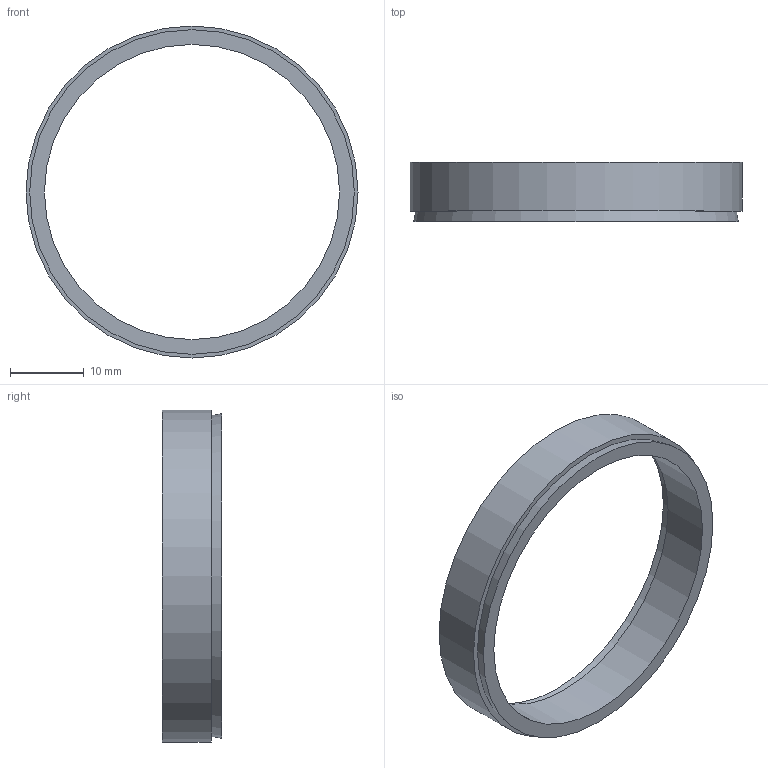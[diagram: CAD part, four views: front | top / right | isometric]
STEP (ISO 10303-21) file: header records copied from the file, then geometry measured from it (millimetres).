
FILE_DESCRIPTION( ( 'Unknown' ), '1' );
FILE_NAME( 'C:/Dokumente und Einstellungen/Sven/Desktop/homepage/cad - homepage/KBS50/KBS 50 - 40 x 45.stp', 'Unknown', ( 'Unknown' ), ( 'Unknown' ), 'XStep 1.0', 'Unknown', ' ' );
FILE_SCHEMA( ( 'automotive_design' ) );
Length unit declared in the file: millimetre
Products named in the file (1): 1
Bounding box: 45 x 8 x 45 mm (x, y, z)
Volume: 2434.4 mm3; surface area: 2880.5 mm2
Topology: 1 solids, 1 shells, 8 faces, 12 edges, 8 vertices
Faces by surface type: plane 4, cylinder 2, cone 2
Full cylindrical faces by diameter (mm): 40 x1, 45 x1
Entity records: 248 total; most frequent: DIRECTION 34, CARTESIAN_POINT 25, AXIS2_PLACEMENT_3D 17, EDGE_LOOP 16, ORIENTED_EDGE 16, FACE_OUTER_BOUND 10, STYLED_ITEM 8, PRESENTATION_STYLE_ASSIGNMENT 8
